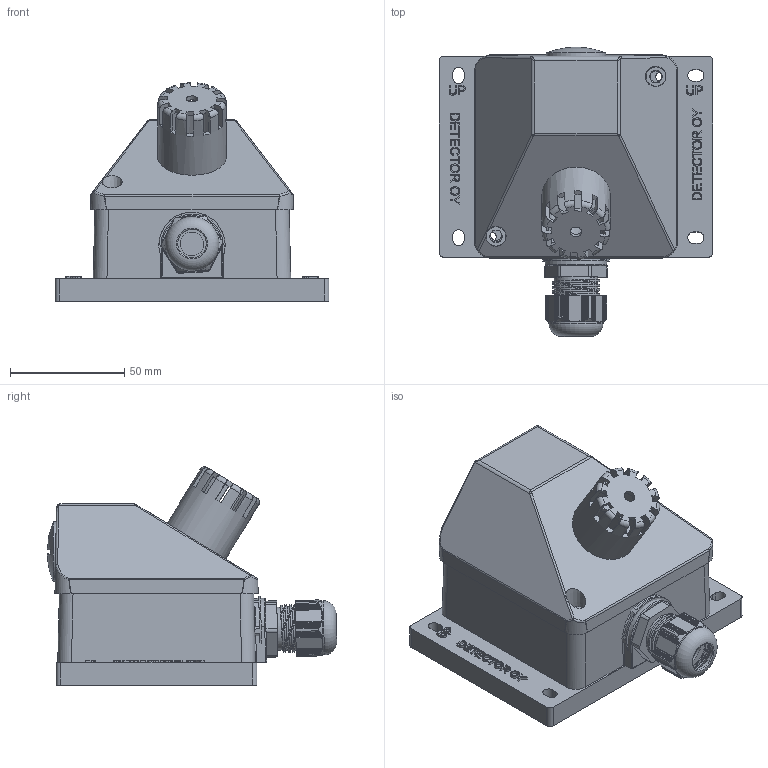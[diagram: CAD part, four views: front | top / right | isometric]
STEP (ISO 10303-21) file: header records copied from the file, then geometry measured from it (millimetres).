
FILE_DESCRIPTION(/* description */ (''),/* implementation_level */ '2;1');
FILE_NAME(/* name */ 'VARIO (ec), DGTi2.step',/* time_stamp */ '2026-06-29T12:46:54+03:00',/* author */ (''),/* organization */ (''),/* preprocessor_version */ 'ST-DEVELOPER v20.1',/* originating_system */ 'Autodesk Translation Framework v15.8.0.0',/* authorisation */ '');
FILE_SCHEMA (('AUTOMOTIVE_DESIGN { 1 0 10303 214 3 1 1 }'));
Length unit declared in the file: millimetre
Products named in the file (7): 2026-06-22-15-26-52-673; 311 kotelo _ Detector; NONE; 2026-06-22-15-47-44-507; 1; Vinokansi K40; 2026-06-22-16-22-14-972
Assembly tree (6 placements, depth 2):
  2026-06-22-15-26-52-673
    311 kotelo _ Detector
    NONE
    2026-06-22-15-47-44-507
    1
    Vinokansi K40
    2026-06-22-16-22-14-972
Bounding box: 120 x 126.72 x 95.69 mm (x, y, z)
Volume: 193100 mm3; surface area: 105918.1 mm2
Topology: 6 solids, 6 shells, 1259 faces, 3402 edges, 2200 vertices
Faces by surface type: plane 556, cylinder 346, bspline 276, torus 32, cone 26, sphere 23
Full cylindrical faces by diameter (mm): 0.217 x1, 2.5 x2, 3 x2, 4 x5, 5 x4, 5.5 x4, 6 x2, 9 x3, 10 x2, 12.5 x1, 12.6 x1, 17 x1, 18.95 x2, 19 x4, 20 x1, 20.8 x3, 21 x1, 21.5 x1, 22.5 x2, 23.7 x1, 24 x1, 26 x2, 29 x1, 30 x1, 73 x1
Entity records: 46206 total; most frequent: CARTESIAN_POINT 16019, ORIENTED_EDGE 6760, DIRECTION 5369, EDGE_CURVE 3380, VERTEX_POINT 2200, LINE 1893, VECTOR 1893, AXIS2_PLACEMENT_3D 1738
